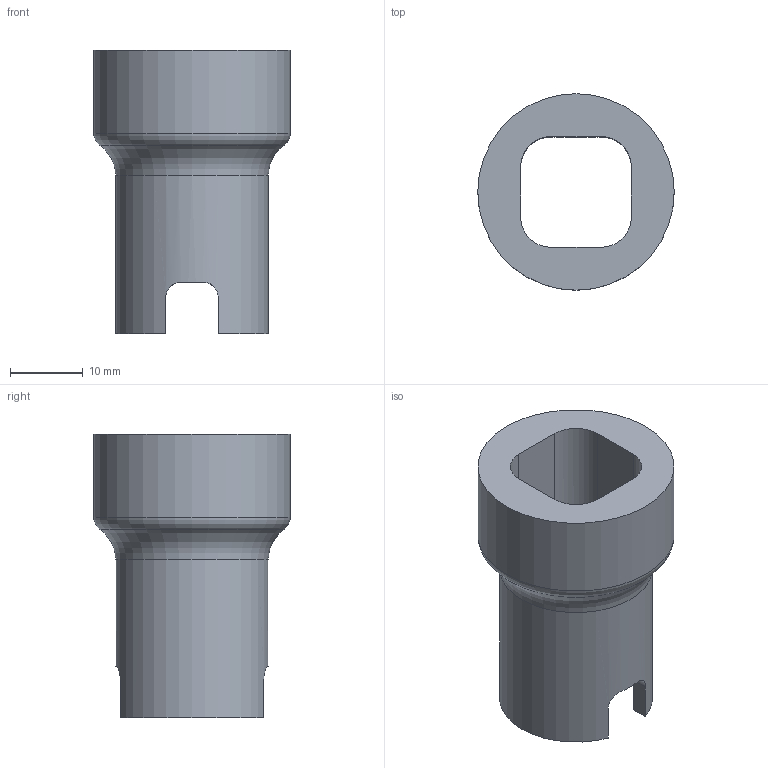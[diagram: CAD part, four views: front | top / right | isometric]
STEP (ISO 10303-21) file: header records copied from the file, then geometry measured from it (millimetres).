
FILE_DESCRIPTION(/* description */ (''),/* implementation_level */ '2;1');
FILE_NAME(/* name */ 'LAST_Grip 07.stp',/* time_stamp */ '2025-11-19T23:10:25+09:00',/* author */ (''),/* organization */ (''),/* preprocessor_version */ 'ST-DEVELOPER v11',/* originating_system */ 'SIEMENS PLM Software NX 7.5',/* authorisation */ '');
FILE_SCHEMA (('CONFIG_CONTROL_DESIGN'));
Length unit declared in the file: millimetre
Products named in the file (1): gyun8741ysff
Bounding box: 27 x 27 x 38.97 mm (x, y, z)
Volume: 7893.2 mm3; surface area: 5345.3 mm2
Topology: 1 solids, 1 shells, 25 faces, 69 edges, 45 vertices
Faces by surface type: plane 13, cylinder 10, torus 2
Full cylindrical faces by diameter (mm): 21 x1, 27 x1
Entity records: 926 total; most frequent: CARTESIAN_POINT 213, DIRECTION 130, ORIENTED_EDGE 128, EDGE_CURVE 64, AXIS2_PLACEMENT_3D 47, VERTEX_POINT 44, LINE 36, VECTOR 36
